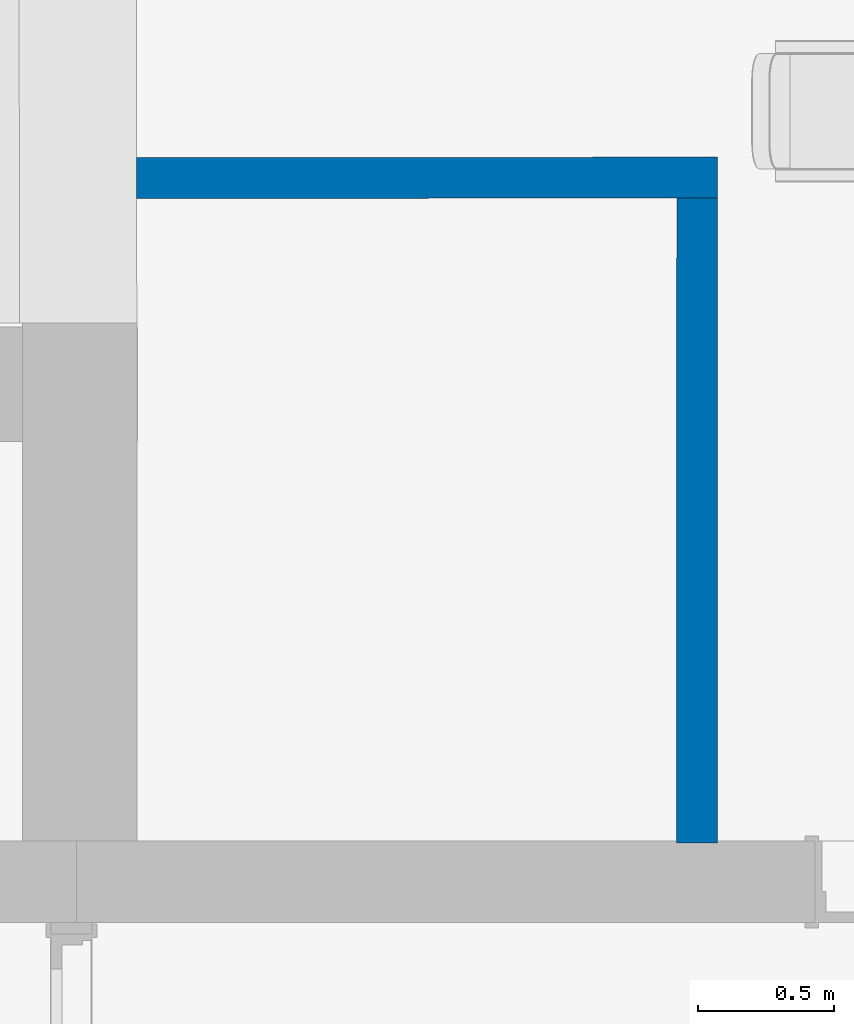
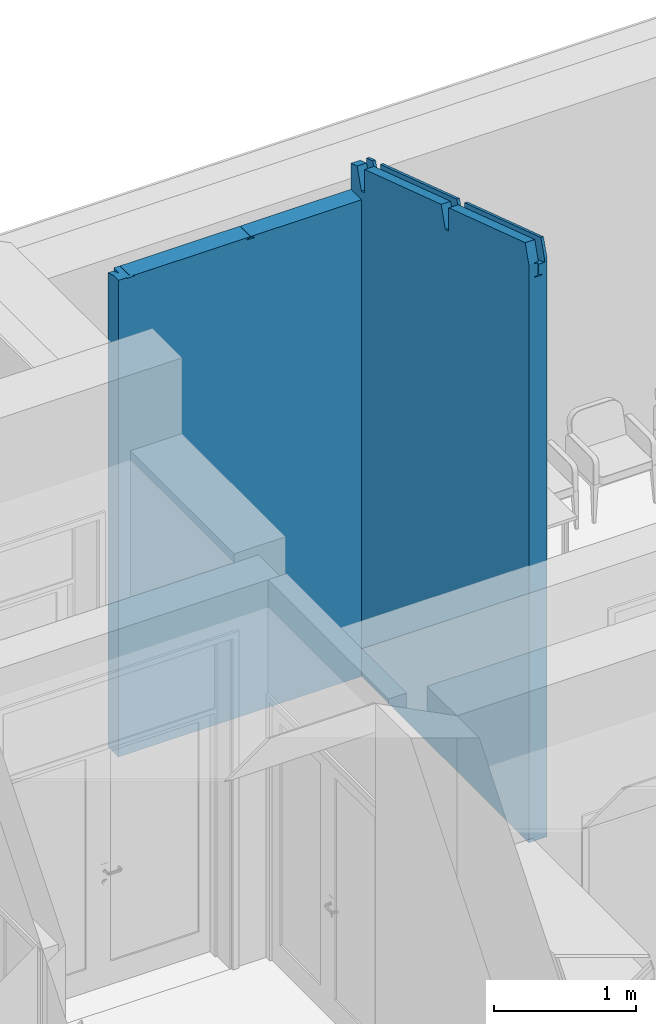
# One storey, part 62 of 194: 2 walls.
"""IFC2X3 building model written with IfcOpenShell, lengths in millimetres."""

from ifc_helpers import new_model, entity, si_unit, converted_unit, derived_unit, money_unit, direction, frame, origin_with_axes, place, context, subcontext, project, spatial, polyline, outline, extrude, boolean, faceted_brep, material, type_object, element, save


model = new_model("IFC2X3")

# Units and contexts
model_context = context("Model", 3, precision=1e-05, world=origin_with_axes(), true_north=direction((0.0, 1.0)))
body_context = subcontext(model_context, "Body", "Model", "MODEL_VIEW")
ifc_project = project(units=[si_unit("LENGTHUNIT", "METRE", prefix="MILLI"), si_unit("AREAUNIT", "SQUARE_METRE"), si_unit("VOLUMEUNIT", "CUBIC_METRE"), converted_unit("PLANEANGLEUNIT", "DEGREE", entity("IfcPlaneAngleMeasure", 0.0174532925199), si_unit("PLANEANGLEUNIT", "RADIAN"), dimensions=[0, 0, 0, 0, 0, 0, 0]), si_unit("SOLIDANGLEUNIT", "STERADIAN"), money_unit("EUR"), converted_unit("TIMEUNIT", "Year", entity("IfcTimeMeasure", 31556926.0), si_unit("TIMEUNIT", "SECOND"), dimensions=[0, 0, 1, 0, 0, 0, 0]), si_unit("MASSUNIT", "GRAM", prefix="KILO"), si_unit("THERMODYNAMICTEMPERATUREUNIT", "DEGREE_CELSIUS"), si_unit("LUMINOUSINTENSITYUNIT", "LUMEN"), si_unit("ENERGYUNIT", "JOULE", prefix="MEGA"), derived_unit("THERMALCONDUCTANCEUNIT", [(si_unit("POWERUNIT", "WATT"), 1), (si_unit("LENGTHUNIT", "METRE"), -1), (si_unit("THERMODYNAMICTEMPERATUREUNIT", "KELVIN"), -1)]), derived_unit("SPECIFICHEATCAPACITYUNIT", [(si_unit("ENERGYUNIT", "JOULE"), 1), (si_unit("MASSUNIT", "GRAM", prefix="KILO"), -1), (si_unit("THERMODYNAMICTEMPERATUREUNIT", "KELVIN"), -1)]), derived_unit("MASSDENSITYUNIT", [(si_unit("MASSUNIT", "GRAM", prefix="KILO"), 1), (si_unit("VOLUMEUNIT", "CUBIC_METRE"), -1)])], contexts=[model_context])

# Site, building, storey
site_placement = place(None, origin_with_axes())
site = spatial("IfcSite", under=ifc_project, at=site_placement, Name="Site", CompositionType="ELEMENT")
building_placement = place(site_placement, origin_with_axes())
building = spatial("IfcBuilding", under=site, at=building_placement, Name="Building", CompositionType="ELEMENT")
storey_placement = place(building_placement, frame((0.0, 0.0, 3000.0), z_axis=(0.0, 0.0, 1.0), x_axis=(1.0, 0.0, 0.0)))
storey = spatial("IfcBuildingStorey", under=building, at=storey_placement, Name="2 KORRUS", CompositionType="ELEMENT", Elevation=3000.0)

# Walls
ifc_material = material(Name="Kivi -  Uus Konstruktsioon")
wall_type = type_object("IfcWallType", Name="SS-1", PredefinedType="NOTDEFINED")
wall_1_placement = place(storey_placement, frame((66287.4614501, 45508.650607, 0.0), z_axis=(0.0, 0.0, 1.0), x_axis=(-0.000637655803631, -0.999999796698, 0.0)))
element("IfcWall", 1, at=wall_1_placement, inside=storey, type_object=wall_type, material=ifc_material, Name="sahti sein", context=body_context, shape_type="CSG", body=[
    boolean("DIFFERENCE", extrude(outline(polyline([(-9.09494701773e-10, -150.0), (2515.1455284, -150.0), (2515.1455284, 0.0), (0.0, 0.0), (-9.09494701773e-10, -150.0)])), origin_with_axes(), (0.0, 0.0, 1.0), 5403.01896607), faceted_brep([(147.945083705, 1.13686837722e-10, 4181.92950808), (88.6289521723, 1.13686837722e-10, 4362.43329014), (0.0, 0.0, 4333.30850243), (0.0, 0.0, 5403.01896607), (2515.1455284, 0.0, 5403.01896607), (2515.1455284, 0.0, 4986.29042024), (2463.67819238, 1.13686837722e-10, 5142.90968324), (1382.97068861, 0.0, 4787.7731748), (1382.97068861, 0.0, 4587.7772325), (1335.46970381, 1.13686837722e-10, 4572.16770463), (1276.15357228, 1.13686837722e-10, 4752.67148659), (195.446068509, 0.0, 4397.53497825), (195.446068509, 0.0, 4197.53903594), (147.953278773, -23.3984163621, 4181.94997301), (88.6370992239, -23.2613175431, 4362.45363516), (0.0, -23.3178375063, 4333.32621314), (-9.09494701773e-10, -73.4927486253, 4333.36432273), (-9.09494701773e-10, -150.0, 4333.42243265), (-1.81898940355e-09, -150.0, 5403.01896607), (-9.09494701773e-10, -23.4927596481, 4133.33040369), (-9.09494701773e-10, -72.0597976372, 4133.36729205), (-9.09494701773e-10, -72.0597976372, 4056.23407481), (-9.09494701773e-10, -71.8040500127, 4054.62461911), (-9.09494701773e-10, -71.0757423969, 4053.26029442), (-9.09494701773e-10, -69.9857530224, 4052.34880682), (-1.81898940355e-09, -69.169030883, 4052.07000374), (-9.09494701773e-10, -45.300552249, 4047.89186794), (-9.09494701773e-10, -44.4838301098, 4047.61306487), (-9.09494701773e-10, -43.393840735, 4046.70157727), (-9.09494701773e-10, -42.6655331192, 4045.33725258), (-9.09494701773e-10, -42.4097854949, 4043.72779687), (-9.09494701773e-10, -42.4097854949, 4041.10440891), (0.0, -106.413494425, 4041.09114818), (0.0, -106.413494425, 4043.71453614), (-9.09494701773e-10, -106.157746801, 4045.32409782), (0.0, -105.429439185, 4046.6887243), (-1.81898940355e-09, -104.33944981, 4047.60066357), (-9.09494701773e-10, -103.522727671, 4047.87980507), (-9.09494701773e-10, -79.654249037, 4052.06783134), (-9.09494701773e-10, -78.8375268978, 4052.34697284), (-9.09494701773e-10, -77.7475375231, 4053.25891211), (0.0, -77.0192299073, 4054.62353859), (0.0, -76.7634822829, 4056.23310027), (0.0, -76.7634822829, 4152.13717305), (0.0, -77.0192299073, 4153.74662876), (-9.09494701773e-10, -77.7475375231, 4155.11095345), (-9.09494701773e-10, -78.8375268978, 4156.02244105), (-9.09494701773e-10, -79.654249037, 4156.30124412), (-9.09494701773e-10, -103.522727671, 4160.47937993), (-1.81898940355e-09, -104.33944981, 4160.758183), (0.0, -105.429439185, 4161.6696706), (-9.09494701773e-10, -106.157746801, 4163.03399529), (0.0, -106.413494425, 4164.64345099), (0.0, -106.413494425, 4167.26683896), (-9.09494701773e-10, -73.4927486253, 4167.27365971), (2515.1455284, -150.0, 5403.01896607), (2515.1455284, -21.8657936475, 4986.33284947), (2515.1455284, -150.0, 4986.58148602), (2515.1455284, -71.8889511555, 4986.42991633), (2515.1455284, -71.8889511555, 4984.49414692), (2515.1455284, -104.809696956, 4984.48732617), (2515.1455284, -104.809696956, 4981.86393821), (2515.1455284, -104.553949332, 4980.2544825), (2515.1455284, -103.825641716, 4978.89015781), (2515.1455284, -102.735652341, 4977.97867021), (2515.1455284, -101.918930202, 4977.69986714), (2515.1455284, -78.0504515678, 4973.52173134), (2515.1455284, -77.2337294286, 4973.24292827), (2515.1455284, -76.1437400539, 4972.33144066), (2515.1455284, -75.415432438, 4970.96711597), (2515.1455284, -75.1596848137, 4969.35766027), (2515.1455284, -75.1596848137, 4873.45358749), (2515.1455284, -75.415432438, 4871.84402581), (2515.1455284, -76.1437400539, 4870.47939933), (2515.1455284, -77.2337294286, 4869.56746006), (2515.1455284, -78.0504515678, 4869.28831856), (2515.1455284, -101.918930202, 4865.10029228), (2515.1455284, -102.735652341, 4864.82115078), (2515.1455284, -103.825641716, 4863.90921151), (2515.1455284, -104.553949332, 4862.54458504), (2515.1455284, -104.809696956, 4860.93502336), (2515.1455284, -104.809696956, 4858.31163539), (2515.1455284, -40.8059880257, 4858.32489612), (2515.1455284, -40.8059880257, 4860.94828409), (2515.1455284, -41.06173565, 4862.55773979), (2515.1455284, -41.7900432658, 4863.92206448), (2515.1455284, -42.8800326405, 4864.83355209), (2515.1455284, -43.6967547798, 4865.11235516), (2515.1455284, -67.5652334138, 4869.29049096), (2515.1455284, -68.3819555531, 4869.56929403), (2515.1455284, -69.4719449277, 4870.48078163), (2515.1455284, -70.2002525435, 4871.84510632), (2515.1455284, -70.456000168, 4873.45456203), (2515.1455284, -70.456000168, 4959.8801844), (2515.1455284, -21.888962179, 4959.84329604), (2463.685809, -21.7468536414, 5142.92870367), (1382.97854659, -22.4359729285, 4787.79279795), (1382.97854014, -22.4175601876, 4787.79278185), (1382.97852725, -22.3807344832, 4787.79274964), (1382.97852725, -22.3807344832, 4587.79680733), (1382.97854014, -22.4175601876, 4587.79683954), (1382.97854659, -22.4359729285, 4587.79685565), (1382.97860786, -22.6108951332, 4587.79700864), (1359.22812076, -22.6260397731, 4579.99225795), (1335.47763366, -22.6411844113, 4572.18750727), (1276.16145411, -22.5040855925, 4752.69116932), (195.454191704, -23.1932048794, 4397.5552637), (195.454185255, -23.1747921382, 4397.55524759), (195.454172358, -23.1379664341, 4397.55521539), (195.454172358, -23.1379664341, 4197.55927308), (195.454185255, -23.1747921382, 4197.55930529), (195.454191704, -23.1932048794, 4197.55932139), (195.454252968, -23.3681270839, 4197.55947438), (171.703765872, -23.3832717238, 4189.7547237), (88.654672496, -73.4362174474, 4362.49751958), (88.6814882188, -150.0, 4362.56448449), (2463.73072842, -150.0, 5143.04087758), (147.997619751, -150.0, 4182.06070243), (195.498604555, -150.0, 4197.67023029), (195.498604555, -150.0, 4397.6661726), (1276.20610832, -150.0, 4752.80268104), (1335.52223985, -150.0, 4572.29889898), (1383.02322466, -150.0, 4587.90842684), (1383.02322466, -150.0, 4787.90436915), (171.720776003, -71.9502988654, 4189.79720183), (1359.24513089, -71.1930669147, 4580.03473609), (1382.99726541, -75.8816058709, 4601.50031578), (1382.99726541, -75.8816058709, 4587.84360075), (1335.49629121, -75.9118951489, 4572.23409938), (1331.38934237, -75.9145139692, 4584.73188169), (195.47291052, -76.6388378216, 4215.65018468), (195.47291052, -76.6388378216, 4197.60606649), (147.971936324, -76.6691270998, 4181.99656512), (142.562315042, -76.6725765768, 4198.45848657), (142.084595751, -76.9286288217, 4199.91272184), (141.679931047, -77.6571944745, 4201.14556297), (141.409927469, -78.7473560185, 4201.96932107), (141.327618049, -79.5641306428, 4202.22138019), (140.100831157, -103.433391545, 4206.00090868), (140.018521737, -104.250166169, 4206.2529678), (139.748518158, -105.340327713, 4207.0767259), (139.343853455, -106.068893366, 4208.30956703), (138.866134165, -106.324945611, 4209.7638023), (138.087218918, -106.325442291, 4212.13410531), (138.066226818, -73.4047098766, 4212.13410531), (2463.70338228, -71.9217535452, 5142.97258809), (1382.99611987, -72.6108729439, 4787.83668238), (1382.99611987, -72.6108729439, 4616.63643022), (1383.00765004, -105.531611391, 4616.63335586), (1383.00765004, -105.531611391, 4614.00996789), (1383.00756046, -105.275863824, 4612.40048308), (1383.00730538, -104.547556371, 4611.03607551), (1383.00692362, -103.45756724, 4610.12446387), (1383.00663757, -102.640845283, 4609.84556785), (1382.99827787, -78.7723719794, 4605.66471582), (1382.99799182, -77.9556500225, 4605.3858198), (1382.99761006, -76.8656608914, 4604.47420816), (1382.99735498, -76.1373534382, 4603.10980059), (195.473000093, -76.894585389, 4217.25966948), (195.473255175, -77.6228928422, 4218.62407705), (195.473636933, -78.7128819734, 4219.5356887), (195.473922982, -79.5296039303, 4219.81458471), (195.482282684, -103.398077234, 4223.99543675), (195.482568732, -104.21479919, 4224.27433276), (195.482950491, -105.304788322, 4225.18594441), (195.483205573, -106.033095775, 4226.55035198), (195.483295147, -106.288843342, 4228.15983678), (195.483295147, -106.288843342, 4230.78322475), (195.471764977, -73.3681048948, 4230.78629912), (195.471764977, -73.3681048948, 4397.59914812), (1276.17902739, -72.6789854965, 4752.73505384), (1326.89325415, -72.6466472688, 4598.40750043), (1326.91424625, -105.567379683, 4598.40750043), (1327.6931615, -105.566883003, 4596.03719742), (1328.17088079, -105.310830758, 4594.58296216), (1328.57554549, -104.582265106, 4593.35012103), (1328.84554907, -103.492103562, 4592.52636292), (1328.92785849, -102.675328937, 4592.27430381), (1330.15464538, -78.8060680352, 4588.49477531), (1330.2369548, -77.989293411, 4588.2427162), (1330.50695838, -76.8991318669, 4587.41895809), (1330.91162308, -76.1705662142, 4586.18611696)], [[[0, 1, 2, 3, 4, 5, 6, 7, 8, 9, 10, 11, 12]], [[1, 0, 13, 14]], [[15, 2, 1, 14]], [[16, 17, 18, 3, 2, 15, 19, 20, 21, 22, 23, 24, 25, 26, 27, 28, 29, 30, 31, 32, 33, 34, 35, 36, 37, 38, 39, 40, 41, 42, 43, 44, 45, 46, 47, 48, 49, 50, 51, 52, 53, 54]], [[3, 18, 55, 4]], [[56, 5, 4, 55, 57, 58, 59, 60, 61, 62, 63, 64, 65, 66, 67, 68, 69, 70, 71, 72, 73, 74, 75, 76, 77, 78, 79, 80, 81, 82, 83, 84, 85, 86, 87, 88, 89, 90, 91, 92, 93, 94]], [[6, 5, 56, 95]], [[7, 6, 95, 96, 97, 98]], [[8, 7, 98, 99]], [[9, 8, 99, 100, 101, 102, 103, 104]], [[10, 9, 104, 105]], [[11, 10, 105, 106, 107, 108]], [[12, 11, 108, 109]], [[0, 12, 109, 110, 111, 112, 113, 13]], [[19, 15, 14, 13]], [[17, 16, 114, 115]], [[116, 57, 55, 18, 17, 115, 117, 118, 119, 120, 121, 122, 123]], [[20, 19, 13, 113, 124]], [[21, 20, 124, 125, 93, 92]], [[22, 21, 92, 91]], [[23, 22, 91, 90]], [[24, 23, 90, 89]], [[25, 24, 89, 88]], [[26, 25, 88, 87]], [[27, 26, 87, 86]], [[28, 27, 86, 85]], [[29, 28, 85, 84]], [[30, 29, 84, 83]], [[31, 30, 83, 82]], [[32, 31, 82, 81]], [[33, 32, 81, 80]], [[34, 33, 80, 79]], [[35, 34, 79, 78]], [[36, 35, 78, 77]], [[37, 36, 77, 76]], [[38, 37, 76, 75]], [[39, 38, 75, 74]], [[40, 39, 74, 73]], [[41, 40, 73, 72]], [[42, 41, 72, 71]], [[43, 42, 71, 70, 126, 127, 128, 129, 130, 131, 132, 133]], [[44, 43, 133, 134]], [[45, 44, 134, 135]], [[46, 45, 135, 136]], [[47, 46, 136, 137]], [[48, 47, 137, 138]], [[49, 48, 138, 139]], [[50, 49, 139, 140]], [[51, 50, 140, 141]], [[52, 51, 141, 142]], [[53, 52, 142, 143]], [[54, 53, 143, 144]], [[16, 54, 144, 114]], [[58, 57, 116, 145]], [[59, 58, 145, 146, 147]], [[60, 59, 147, 148]], [[61, 60, 148, 149]], [[62, 61, 149, 150]], [[63, 62, 150, 151]], [[64, 63, 151, 152]], [[65, 64, 152, 153]], [[66, 65, 153, 154]], [[67, 66, 154, 155]], [[68, 67, 155, 156]], [[69, 68, 156, 157]], [[70, 69, 157, 126]], [[94, 93, 125, 103, 102]], [[56, 94, 102, 96, 95]], [[97, 96, 101, 100]], [[98, 97, 100, 99]], [[96, 102, 101]], [[124, 113, 112, 104, 103, 125]], [[104, 112, 106, 105]], [[107, 106, 111, 110]], [[108, 107, 110, 109]], [[106, 112, 111]], [[117, 115, 114, 144, 143, 142, 141, 140, 139, 138, 137, 136, 135, 134, 133, 132]], [[118, 117, 132, 131]], [[119, 118, 131, 130, 158, 159, 160, 161, 162, 163, 164, 165, 166, 167, 168, 169]], [[120, 119, 169, 170]], [[121, 120, 170, 171, 172, 173, 174, 175, 176, 177, 178, 179, 180, 181, 129, 128]], [[122, 121, 128, 127]], [[123, 122, 127, 126, 157, 156, 155, 154, 153, 152, 151, 150, 149, 148, 147, 146]], [[116, 123, 146, 145]], [[181, 158, 130, 129]], [[180, 159, 158, 181]], [[179, 160, 159, 180]], [[178, 161, 160, 179]], [[177, 162, 161, 178]], [[176, 163, 162, 177]], [[175, 164, 163, 176]], [[174, 165, 164, 175]], [[173, 166, 165, 174]], [[172, 167, 166, 173]], [[171, 168, 167, 172]], [[171, 170, 169, 168]]])),
])
wall_2_placement = place(storey_placement, frame((66286.9778288, 45508.6509154, 0.0), z_axis=(0.0, 0.0, 1.0), x_axis=(-0.999999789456, -0.000648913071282, 0.0)))
element("IfcWall", 2, at=wall_2_placement, inside=storey, type_object=wall_type, material=ifc_material, Name="sahti sein", context=body_context, shape_type="CSG", body=[
    boolean("DIFFERENCE", boolean("DIFFERENCE", boolean("DIFFERENCE", boolean("DIFFERENCE", extrude(outline(polyline([(0.0, 0.0), (2132.21193888, 9.09494701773e-10), (2132.21193888, 150.000000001), (0.0, 150.000000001), (0.0, 0.0)])), origin_with_axes(), (0.0, 0.0, 1.0), 4109.15929814), faceted_brep([(2132.21193888, 78.9861630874, 4109.15929814), (2083.86511436, 79.1601102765, 4109.15929814), (2083.79099445, 0.0, 4109.15929814), (2132.21193888, 1.81898940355e-09, 4109.15929814), (2132.21193888, 9.09494701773e-10, 4083.20337256), (2083.81374631, 9.09494701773e-10, 4083.14615041)], [[[0, 1, 2, 3]], [[4, 5, 1, 0]], [[5, 2, 1]], [[5, 4, 3, 2]], [[4, 0, 3]]])), faceted_brep([(2002.91152759, 0.0, 4059.21797034), (2002.18324099, 0.0, 4057.8533412), (2001.92750075, 0.0, 4056.24377859), (2001.92750075, 0.0, 4053.62039062), (2065.92936277, 9.09494701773e-10, 4053.63388507), (2065.92936277, 9.09494701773e-10, 4056.25727304), (2065.67362252, 0.0, 4057.86672781), (2064.94533592, 9.09494701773e-10, 4059.23104984), (2063.855378, 9.09494701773e-10, 4060.14253346), (2063.03868005, 0.0, 4060.42133344), (2039.17088893, 9.09494701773e-10, 4064.5993823), (2038.35419098, 0.0, 4064.87818228), (2037.26423306, 0.0, 4065.78966591), (2036.53594646, 0.0, 4067.15398794), (2036.28020621, 0.0, 4068.76344271), (2036.28020621, 0.0, 4109.15929814), (2031.5766573, 9.09494701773e-10, 4109.15929814), (2031.5766573, 9.09494701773e-10, 4068.76245099), (2031.32091705, 0.0, 4067.15288838), (2030.59263046, 0.0, 4065.78825924), (2029.50267253, 0.0, 4064.87631599), (2028.68597458, 0.0, 4064.59717162), (2004.81818347, 0.0, 4060.40905797), (2004.00148551, 0.0, 4060.12991359), (2003.00886457, 150.000000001, 4107.95593504), (2002.28057797, 150.0, 4106.5913059), (2002.02483773, 150.000000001, 4104.98174329), (2002.02483773, 150.000000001, 4102.35835532), (2066.02669975, 150.0, 4102.37184977), (2066.02669975, 150.0, 4104.99523774), (2065.7709595, 150.000000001, 4106.60469251), (2065.0426729, 150.000000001, 4107.96901454), (2063.95271498, 150.000000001, 4108.88049816), (2063.13601703, 150.0, 4109.15929814), (2039.25988173, 137.141290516, 4109.15929814), (2038.44262697, 136.283232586, 4109.15929814), (2037.35084868, 133.477975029, 4109.15929814), (2036.61983733, 129.279024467, 4109.15929814), (2036.36088276, 124.325633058, 4109.15929814), (2031.65733583, 124.328685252, 4109.15929814), (2004.98547762, 150.000000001, 4109.15929814), (2028.77497179, 137.148094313, 4109.15929814), (2029.59111225, 136.28897645, 4109.15929814), (2030.67924889, 133.482304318, 4109.15929814), (2031.40481012, 129.282408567, 4109.15929814), (2004.91552045, 150.000000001, 4109.14702266), (2004.09882249, 150.000000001, 4108.86787829)], [[[0, 1, 2, 3, 4, 5, 6, 7, 8, 9, 10, 11, 12, 13, 14, 15, 16, 17, 18, 19, 20, 21, 22, 23]], [[1, 0, 24, 25]], [[2, 1, 25, 26]], [[3, 2, 26, 27]], [[4, 3, 27, 28]], [[5, 4, 28, 29]], [[6, 5, 29, 30]], [[7, 6, 30, 31]], [[8, 7, 31, 32]], [[9, 8, 32, 33]], [[10, 9, 33, 34]], [[11, 10, 34, 35]], [[12, 11, 35, 36]], [[13, 12, 36, 37]], [[14, 13, 37, 38]], [[38, 15, 14]], [[39, 16, 15, 38, 37, 36, 35, 34, 33, 40, 41, 42, 43, 44]], [[17, 16, 39]], [[18, 17, 39, 44]], [[19, 18, 44, 43]], [[20, 19, 43, 42]], [[21, 20, 42, 41]], [[22, 21, 41, 40, 45]], [[23, 22, 45, 46]], [[0, 23, 46, 24]], [[45, 40, 33, 32, 31, 30, 29, 28, 27, 26, 25, 24, 46]]])), faceted_brep([(1022.91042596, 9.09494701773e-10, 4046.92614288), (1022.18211834, 9.09494701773e-10, 4045.56151374), (1021.92637072, 9.09494701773e-10, 4043.95195112), (1021.92637072, 9.09494701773e-10, 4041.32856316), (1085.93008011, 9.09494701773e-10, 4041.342058), (1085.93008011, 9.09494701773e-10, 4043.96544596), (1085.67433248, 9.09494701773e-10, 4045.57490073), (1084.94602486, 0.0, 4046.93922276), (1083.85603548, 0.0, 4047.85070637), (1083.03931333, 9.09494701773e-10, 4048.12950646), (1059.17083453, 0.0, 4052.30755496), (1058.35411238, 0.0, 4052.58635504), (1057.264123, 0.0, 4053.49783866), (1056.53581538, 0.0, 4054.86216068), (1056.28006775, 9.09494701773e-10, 4056.47161545), (1056.28006775, 9.09494701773e-10, 4109.15929814), (1051.57638307, 0.0, 4109.15929814), (1051.57638307, 0.0, 4056.4706237), (1051.32063545, 0.0, 4054.86106109), (1050.59232783, 0.0, 4053.49643195), (1049.50233844, 9.09494701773e-10, 4052.58448869), (1048.6856163, 0.0, 4052.3053442), (1024.81713749, 0.0, 4048.11723062), (1024.00041535, 0.0, 4047.83808614), (1023.00776294, 150.000000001, 4095.66410758), (1022.27945532, 150.0, 4094.29947844), (1022.0237077, 150.000000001, 4092.68991582), (1022.0237077, 150.000000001, 4090.06652785), (1086.02741709, 150.000000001, 4090.08002269), (1086.02741709, 150.000000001, 4092.70341066), (1085.77166946, 150.000000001, 4094.31286543), (1085.04336184, 150.000000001, 4095.67718745), (1083.95337246, 150.0, 4096.58867107), (1083.13665032, 150.0, 4096.86747115), (1059.26817151, 150.000000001, 4101.04551965), (1058.45144936, 150.000000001, 4101.32431974), (1057.36145998, 150.000000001, 4102.23580335), (1056.63315236, 150.000000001, 4103.60012538), (1056.37740473, 150.000000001, 4105.20958015), (1056.37740473, 150.000000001, 4109.15929814), (1051.67372005, 150.000000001, 4109.15929814), (1051.67372005, 150.000000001, 4105.2085884), (1051.41797243, 150.000000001, 4103.59902579), (1050.68966481, 150.000000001, 4102.23439664), (1049.59967542, 150.000000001, 4101.32245339), (1048.78295328, 150.0, 4101.0433089), (1024.91447447, 150.000000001, 4096.85519532), (1024.09775233, 150.000000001, 4096.57605083)], [[[0, 1, 2, 3, 4, 5, 6, 7, 8, 9, 10, 11, 12, 13, 14, 15, 16, 17, 18, 19, 20, 21, 22, 23]], [[1, 0, 24, 25]], [[2, 1, 25, 26]], [[3, 2, 26, 27]], [[4, 3, 27, 28]], [[5, 4, 28, 29]], [[6, 5, 29, 30]], [[7, 6, 30, 31]], [[8, 7, 31, 32]], [[9, 8, 32, 33]], [[10, 9, 33, 34]], [[11, 10, 34, 35]], [[12, 11, 35, 36]], [[13, 12, 36, 37]], [[14, 13, 37, 38]], [[39, 15, 14, 38]], [[40, 16, 15, 39]], [[17, 16, 40, 41]], [[18, 17, 41, 42]], [[19, 18, 42, 43]], [[20, 19, 43, 44]], [[21, 20, 44, 45]], [[22, 21, 45, 46]], [[23, 22, 46, 47]], [[0, 23, 47, 24]], [[41, 40, 39, 38, 37, 36, 35, 34, 33, 32, 31, 30, 29, 28, 27, 26, 25, 24, 47, 46, 45, 44, 43, 42]]])), faceted_brep([(42.9102196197, 9.09494701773e-10, 4046.71951509), (42.1819119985, 9.09494701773e-10, 4045.35488595), (41.9261643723, 9.09494701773e-10, 4043.74532334), (41.9261643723, 9.09494701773e-10, 4041.12193537), (105.929873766, 0.0, 4041.13543021), (105.929873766, 0.0, 4043.75881817), (105.67412614, 9.09494701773e-10, 4045.36827294), (104.945818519, 0.0, 4046.73259497), (103.855829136, 0.0, 4047.64407859), (103.039106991, 0.0, 4047.92287867), (79.1706281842, 0.0, 4052.10092717), (78.353906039, 0.0, 4052.37972725), (77.2639166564, 9.09494701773e-10, 4053.29121087), (76.5356090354, 9.09494701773e-10, 4054.65553289), (76.2798614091, 9.09494701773e-10, 4056.26498766), (76.2798614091, 9.09494701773e-10, 4109.15929814), (71.5761767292, 0.0, 4109.15929814), (71.5761767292, 0.0, 4056.26399592), (71.320429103, 0.0, 4054.6544333), (70.592121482, 9.09494701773e-10, 4053.28980416), (69.5021320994, 0.0, 4052.3778609), (68.6854099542, 0.0, 4052.09871641), (44.8169311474, 0.0, 4047.91060284), (44.0002090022, 9.09494701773e-10, 4047.63145835), (43.0075566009, 150.000000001, 4095.45747979), (42.2792489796, 150.0, 4094.09285065), (42.0235013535, 150.000000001, 4092.48328803), (42.0235013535, 150.000000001, 4089.85990006), (106.027210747, 150.000000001, 4089.8733949), (106.027210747, 150.000000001, 4092.49678287), (105.771463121, 150.000000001, 4094.10623764), (105.0431555, 150.000000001, 4095.47055966), (103.953166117, 150.0, 4096.38204328), (103.136443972, 150.0, 4096.66084337), (79.2679651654, 150.000000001, 4100.83889186), (78.4512430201, 150.000000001, 4101.11769195), (77.3612536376, 150.000000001, 4102.02917557), (76.6329460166, 150.000000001, 4103.39349759), (76.3771983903, 150.000000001, 4105.00295236), (76.3771983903, 150.000000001, 4109.15929814), (71.6735137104, 150.000000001, 4109.15929814), (71.6735137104, 150.000000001, 4105.00196061), (71.4177660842, 150.000000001, 4103.392398), (70.6894584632, 150.000000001, 4102.02776885), (69.5994690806, 150.0, 4101.1158256), (68.7827469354, 150.000000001, 4100.83668111), (44.9142681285, 150.0, 4096.64856753), (44.0975459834, 150.0, 4096.36942305)], [[[0, 1, 2, 3, 4, 5, 6, 7, 8, 9, 10, 11, 12, 13, 14, 15, 16, 17, 18, 19, 20, 21, 22, 23]], [[1, 0, 24, 25]], [[2, 1, 25, 26]], [[3, 2, 26, 27]], [[4, 3, 27, 28]], [[5, 4, 28, 29]], [[6, 5, 29, 30]], [[7, 6, 30, 31]], [[8, 7, 31, 32]], [[9, 8, 32, 33]], [[10, 9, 33, 34]], [[11, 10, 34, 35]], [[12, 11, 35, 36]], [[13, 12, 36, 37]], [[14, 13, 37, 38]], [[39, 15, 14, 38]], [[40, 16, 15, 39]], [[17, 16, 40, 41]], [[18, 17, 41, 42]], [[19, 18, 42, 43]], [[20, 19, 43, 44]], [[21, 20, 44, 45]], [[22, 21, 45, 46]], [[23, 22, 46, 47]], [[0, 23, 47, 24]], [[41, 40, 39, 38, 37, 36, 35, 34, 33, 32, 31, 30, 29, 28, 27, 26, 25, 24, 47, 46, 45, 44, 43, 42]]])),
])

save(model, "model.ifc")
